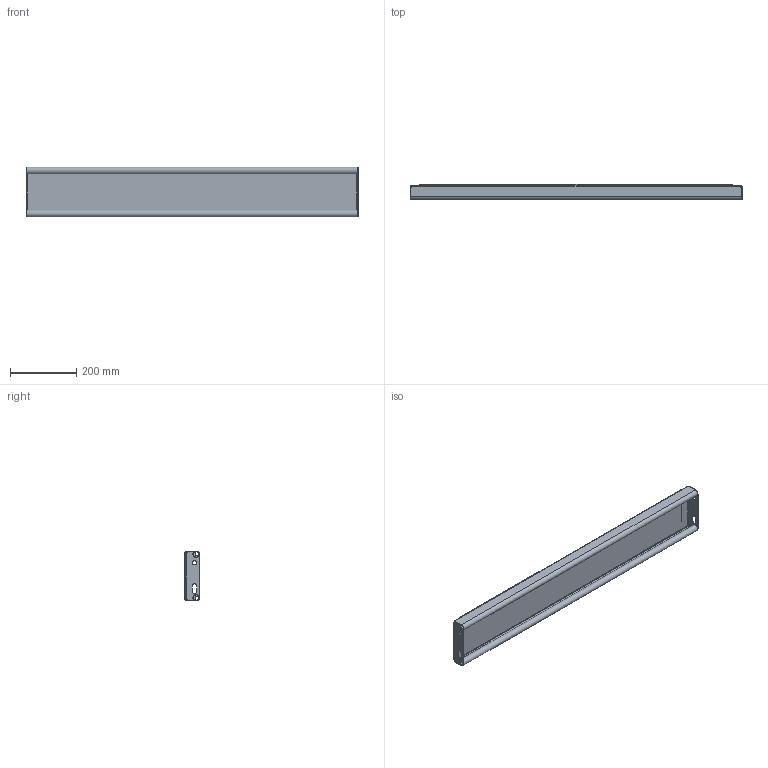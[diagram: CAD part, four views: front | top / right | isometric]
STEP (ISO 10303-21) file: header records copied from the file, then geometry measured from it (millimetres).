
FILE_DESCRIPTION (( 'STEP AP214' ), '1' );
FILE_NAME ('OPTIMO-Tread-Achil-O2-1000x150x45x2-st240-F100060100-plain.STEP', '2021-03-15T09:26:06', ( '' ), ( '' ), 'SwSTEP 2.0', 'SolidWorks 2021', '' );
FILE_SCHEMA (( 'AUTOMOTIVE_DESIGN' ));
Length unit declared in the file: millimetre
Products named in the file (1): OPTIMO-Tread-Achil-O2-1000x150x45x2-st240-F100060100-plain
Bounding box: 1000 x 45 x 150 mm (x, y, z)
Volume: 1028355.8 mm3; surface area: 640698.9 mm2
Topology: 1 solids, 1 shells, 247 faces, 637 edges, 410 vertices
Faces by surface type: plane 172, bspline 39, cylinder 36
Entity records: 9731 total; most frequent: CARTESIAN_POINT 3926, ORIENTED_EDGE 1274, DIRECTION 1017, EDGE_CURVE 637, LINE 487, VECTOR 487, VERTEX_POINT 410, EDGE_LOOP 273
